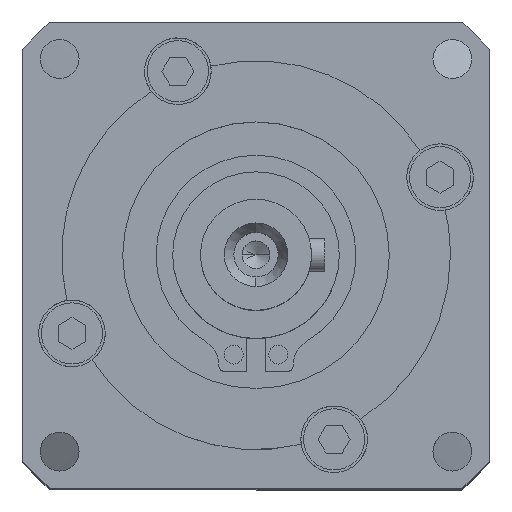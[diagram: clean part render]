
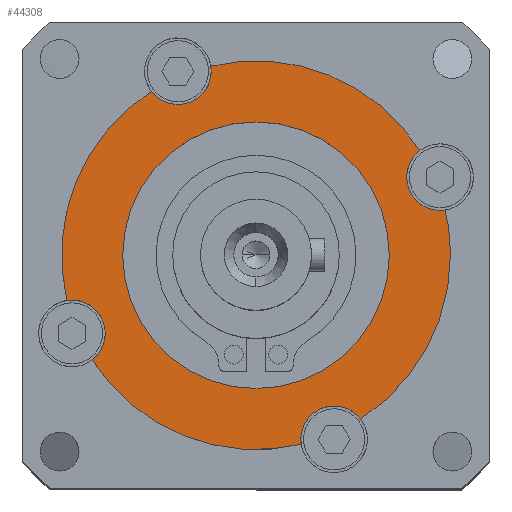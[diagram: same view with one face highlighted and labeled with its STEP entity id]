
A CAD part, top view. The second image highlights one B-rep face of the part: STEP entity #44308.
In plain terms, the highlighted planar face has unit normal (0, 0, 1).
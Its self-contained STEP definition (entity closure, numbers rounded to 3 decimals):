
#21 = CIRCLE ( 'NONE', #29038, 3. ) ;
#68 = CIRCLE ( 'NONE', #37394, 3. ) ;
#119 = CARTESIAN_POINT ( 'NONE',  ( -17.021, -4.067, 0. ) ) ;
#121 = DIRECTION ( 'NONE',  ( -1., 0., 0. ) ) ;
#585 = FACE_BOUND ( 'NONE', #2393, .T. ) ;
#982 = AXIS2_PLACEMENT_3D ( 'NONE', #6232, #32608, #10023 ) ;
#2028 = EDGE_CURVE ( 'NONE', #6356, #5153, #29614, .T. ) ;
#2141 = DIRECTION ( 'NONE',  ( 1., 0., 0. ) ) ;
#2248 = VERTEX_POINT ( 'NONE', #6107 ) ;
#2393 = EDGE_LOOP ( 'NONE', ( #36603, #27596 ) ) ;
#2526 = EDGE_CURVE ( 'NONE', #36273, #43518, #13052, .T. ) ;
#2638 = AXIS2_PLACEMENT_3D ( 'NONE', #44691, #22469, #48331 ) ;
#3251 = DIRECTION ( 'NONE',  ( 0., 0., -1. ) ) ;
#3506 = ORIENTED_EDGE ( 'NONE', *, *, #19652, .T. ) ;
#3621 = CIRCLE ( 'NONE', #27388, 17.5 ) ;
#3890 = CIRCLE ( 'NONE', #982, 3. ) ;
#5153 = VERTEX_POINT ( 'NONE', #21858 ) ;
#5751 = DIRECTION ( 'NONE',  ( 0., 0., -1. ) ) ;
#5782 = ORIENTED_EDGE ( 'NONE', *, *, #2526, .T. ) ;
#6107 = CARTESIAN_POINT ( 'NONE',  ( 17.5, 0., 0. ) ) ;
#6232 = CARTESIAN_POINT ( 'NONE',  ( 7.033, -16.569, 0. ) ) ;
#6328 = ORIENTED_EDGE ( 'NONE', *, *, #24127, .F. ) ;
#6356 = VERTEX_POINT ( 'NONE', #14442 ) ;
#6962 = AXIS2_PLACEMENT_3D ( 'NONE', #9725, #36049, #13563 ) ;
#7149 = EDGE_CURVE ( 'NONE', #11731, #36875, #14642, .T. ) ;
#7789 = ORIENTED_EDGE ( 'NONE', *, *, #28136, .T. ) ;
#7812 = ORIENTED_EDGE ( 'NONE', *, *, #26018, .T. ) ;
#8507 = CIRCLE ( 'NONE', #48256, 3. ) ;
#9725 = CARTESIAN_POINT ( 'NONE',  ( 0., 0., 0. ) ) ;
#9762 = CARTESIAN_POINT ( 'NONE',  ( 0., 0., 0. ) ) ;
#10023 = DIRECTION ( 'NONE',  ( -1., 0., 0. ) ) ;
#10085 = CARTESIAN_POINT ( 'NONE',  ( -14.749, -9.418, 0. ) ) ;
#10808 = CIRCLE ( 'NONE', #13729, 17.5 ) ;
#11542 = DIRECTION ( 'NONE',  ( 0., 0., -1. ) ) ;
#11731 = VERTEX_POINT ( 'NONE', #32086 ) ;
#13052 = CIRCLE ( 'NONE', #42741, 3. ) ;
#13158 = CARTESIAN_POINT ( 'NONE',  ( 13.569, 7.033, 0. ) ) ;
#13563 = DIRECTION ( 'NONE',  ( 1., 0., 0. ) ) ;
#13600 = DIRECTION ( 'NONE',  ( 1., 0., 0. ) ) ;
#13622 = AXIS2_PLACEMENT_3D ( 'NONE', #18557, #18517, #18451 ) ;
#13729 = AXIS2_PLACEMENT_3D ( 'NONE', #25850, #3251, #29664 ) ;
#13941 = AXIS2_PLACEMENT_3D ( 'NONE', #18915, #22744, #121 ) ;
#14126 = DIRECTION ( 'NONE',  ( 0., 0., -1. ) ) ;
#14442 = CARTESIAN_POINT ( 'NONE',  ( -4.033, 16.569, 0. ) ) ;
#14642 = CIRCLE ( 'NONE', #22969, 12. ) ;
#15054 = DIRECTION ( 'NONE',  ( 0., 0., -1. ) ) ;
#15610 = ORIENTED_EDGE ( 'NONE', *, *, #36330, .F. ) ;
#15670 = DIRECTION ( 'NONE',  ( 0., 0., -1. ) ) ;
#16068 = VERTEX_POINT ( 'NONE', #119 ) ;
#16383 = DIRECTION ( 'NONE',  ( 0., 0., 1. ) ) ;
#16488 = CARTESIAN_POINT ( 'NONE',  ( 16.569, 7.033, 0. ) ) ;
#17520 = CARTESIAN_POINT ( 'NONE',  ( -13.569, -7.033, 0. ) ) ;
#18451 = DIRECTION ( 'NONE',  ( -1., 0., 0. ) ) ;
#18517 = DIRECTION ( 'NONE',  ( 0., 0., -1. ) ) ;
#18557 = CARTESIAN_POINT ( 'NONE',  ( -7.033, 16.569, 0. ) ) ;
#18915 = CARTESIAN_POINT ( 'NONE',  ( 0., 12., 0. ) ) ;
#19186 = CARTESIAN_POINT ( 'NONE',  ( 4.033, -16.569, 0. ) ) ;
#19478 = FACE_OUTER_BOUND ( 'NONE', #32016, .T. ) ;
#19652 = EDGE_CURVE ( 'NONE', #28877, #37200, #21, .T. ) ;
#20279 = DIRECTION ( 'NONE',  ( -1., 0., 0. ) ) ;
#21858 = CARTESIAN_POINT ( 'NONE',  ( -9.418, 14.749, 0. ) ) ;
#22469 = DIRECTION ( 'NONE',  ( 0., 0., -1. ) ) ;
#22744 = DIRECTION ( 'NONE',  ( 0., 0., -1. ) ) ;
#22969 = AXIS2_PLACEMENT_3D ( 'NONE', #38818, #16383, #42500 ) ;
#23011 = CIRCLE ( 'NONE', #6962, 12. ) ;
#23485 = EDGE_CURVE ( 'NONE', #43518, #24642, #3890, .T. ) ;
#24127 = EDGE_CURVE ( 'NONE', #36273, #29454, #44810, .T. ) ;
#24642 = VERTEX_POINT ( 'NONE', #35908 ) ;
#24765 = DIRECTION ( 'NONE',  ( 0., 0., -1. ) ) ;
#24790 = EDGE_CURVE ( 'NONE', #16068, #47594, #8507, .T. ) ;
#25014 = EDGE_CURVE ( 'NONE', #38440, #6356, #41340, .T. ) ;
#25786 = CIRCLE ( 'NONE', #34799, 17.5 ) ;
#25850 = CARTESIAN_POINT ( 'NONE',  ( 0., 0., 0. ) ) ;
#26018 = EDGE_CURVE ( 'NONE', #42683, #28877, #26764, .T. ) ;
#26309 = EDGE_CURVE ( 'NONE', #42683, #2248, #10808, .T. ) ;
#26376 = ORIENTED_EDGE ( 'NONE', *, *, #24790, .T. ) ;
#26559 = CARTESIAN_POINT ( 'NONE',  ( -4.067, 17.021, 0. ) ) ;
#26611 = EDGE_CURVE ( 'NONE', #38440, #37200, #32595, .T. ) ;
#26764 = CIRCLE ( 'NONE', #27296, 3. ) ;
#27092 = ORIENTED_EDGE ( 'NONE', *, *, #25014, .T. ) ;
#27287 = ORIENTED_EDGE ( 'NONE', *, *, #27971, .F. ) ;
#27296 = AXIS2_PLACEMENT_3D ( 'NONE', #16488, #42595, #20279 ) ;
#27388 = AXIS2_PLACEMENT_3D ( 'NONE', #46930, #24765, #2141 ) ;
#27583 = AXIS2_PLACEMENT_3D ( 'NONE', #28379, #5751, #32131 ) ;
#27596 = ORIENTED_EDGE ( 'NONE', *, *, #45086, .F. ) ;
#27971 = EDGE_CURVE ( 'NONE', #16068, #5153, #3621, .T. ) ;
#28136 = EDGE_CURVE ( 'NONE', #47594, #29454, #68, .T. ) ;
#28162 = CARTESIAN_POINT ( 'NONE',  ( 14.749, 9.418, 0. ) ) ;
#28207 = ORIENTED_EDGE ( 'NONE', *, *, #23485, .T. ) ;
#28379 = CARTESIAN_POINT ( 'NONE',  ( -7.033, 16.569, 0. ) ) ;
#28877 = VERTEX_POINT ( 'NONE', #13158 ) ;
#29038 = AXIS2_PLACEMENT_3D ( 'NONE', #38117, #15670, #41780 ) ;
#29454 = VERTEX_POINT ( 'NONE', #10085 ) ;
#29614 = CIRCLE ( 'NONE', #13622, 3. ) ;
#29664 = DIRECTION ( 'NONE',  ( 1., 0., 0. ) ) ;
#30428 = ORIENTED_EDGE ( 'NONE', *, *, #2028, .T. ) ;
#32016 = EDGE_LOOP ( 'NONE', ( #27287, #26376, #7789, #6328, #5782, #28207, #15610, #35319, #7812, #3506, #36358, #27092, #30428 ) ) ;
#32086 = CARTESIAN_POINT ( 'NONE',  ( 12., 0., 0. ) ) ;
#32131 = DIRECTION ( 'NONE',  ( -1., 0., 0. ) ) ;
#32595 = CIRCLE ( 'NONE', #2638, 17.5 ) ;
#32608 = DIRECTION ( 'NONE',  ( 0., 0., -1. ) ) ;
#33776 = DIRECTION ( 'NONE',  ( -1., 0., 0. ) ) ;
#33864 = DIRECTION ( 'NONE',  ( 0., 0., -1. ) ) ;
#33959 = CARTESIAN_POINT ( 'NONE',  ( 7.033, -16.569, 0. ) ) ;
#34093 = CARTESIAN_POINT ( 'NONE',  ( -16.569, -7.033, 0. ) ) ;
#34799 = AXIS2_PLACEMENT_3D ( 'NONE', #9762, #36090, #13600 ) ;
#35319 = ORIENTED_EDGE ( 'NONE', *, *, #26309, .F. ) ;
#35908 = CARTESIAN_POINT ( 'NONE',  ( 9.418, -14.749, 0. ) ) ;
#36049 = DIRECTION ( 'NONE',  ( 0., 0., 1. ) ) ;
#36090 = DIRECTION ( 'NONE',  ( 0., 0., -1. ) ) ;
#36273 = VERTEX_POINT ( 'NONE', #38362 ) ;
#36330 = EDGE_CURVE ( 'NONE', #2248, #24642, #25786, .T. ) ;
#36358 = ORIENTED_EDGE ( 'NONE', *, *, #26611, .F. ) ;
#36601 = CARTESIAN_POINT ( 'NONE',  ( 0., 0., 0. ) ) ;
#36603 = ORIENTED_EDGE ( 'NONE', *, *, #7149, .F. ) ;
#36875 = VERTEX_POINT ( 'NONE', #44182 ) ;
#37200 = VERTEX_POINT ( 'NONE', #28162 ) ;
#37394 = AXIS2_PLACEMENT_3D ( 'NONE', #34093, #11542, #37828 ) ;
#37521 = CARTESIAN_POINT ( 'NONE',  ( -16.569, -7.033, 0. ) ) ;
#37828 = DIRECTION ( 'NONE',  ( -1., 0., 0. ) ) ;
#38117 = CARTESIAN_POINT ( 'NONE',  ( 16.569, 7.033, 0. ) ) ;
#38362 = CARTESIAN_POINT ( 'NONE',  ( 4.067, -17.021, 0. ) ) ;
#38440 = VERTEX_POINT ( 'NONE', #26559 ) ;
#38818 = CARTESIAN_POINT ( 'NONE',  ( 0., 0., 0. ) ) ;
#40277 = DIRECTION ( 'NONE',  ( 1., 0., 0. ) ) ;
#41181 = DIRECTION ( 'NONE',  ( -1., 0., 0. ) ) ;
#41277 = PLANE ( 'NONE',  #13941 ) ;
#41340 = CIRCLE ( 'NONE', #27583, 3. ) ;
#41780 = DIRECTION ( 'NONE',  ( -1., 0., 0. ) ) ;
#42500 = DIRECTION ( 'NONE',  ( 1., 0., 0. ) ) ;
#42595 = DIRECTION ( 'NONE',  ( 0., 0., -1. ) ) ;
#42683 = VERTEX_POINT ( 'NONE', #47182 ) ;
#42741 = AXIS2_PLACEMENT_3D ( 'NONE', #33959, #33864, #33776 ) ;
#43518 = VERTEX_POINT ( 'NONE', #19186 ) ;
#44182 = CARTESIAN_POINT ( 'NONE',  ( -12., 0., 0. ) ) ;
#44308 = ADVANCED_FACE ( 'NONE', ( #19478, #585 ), #41277, .F. ) ;
#44691 = CARTESIAN_POINT ( 'NONE',  ( 0., 0., 0. ) ) ;
#44810 = CIRCLE ( 'NONE', #45213, 17.5 ) ;
#45086 = EDGE_CURVE ( 'NONE', #36875, #11731, #23011, .T. ) ;
#45213 = AXIS2_PLACEMENT_3D ( 'NONE', #36601, #14126, #40277 ) ;
#46930 = CARTESIAN_POINT ( 'NONE',  ( 0., 0., 0. ) ) ;
#47182 = CARTESIAN_POINT ( 'NONE',  ( 17.021, 4.067, 0. ) ) ;
#47594 = VERTEX_POINT ( 'NONE', #17520 ) ;
#48256 = AXIS2_PLACEMENT_3D ( 'NONE', #37521, #15054, #41181 ) ;
#48331 = DIRECTION ( 'NONE',  ( 1., 0., 0. ) ) ;
